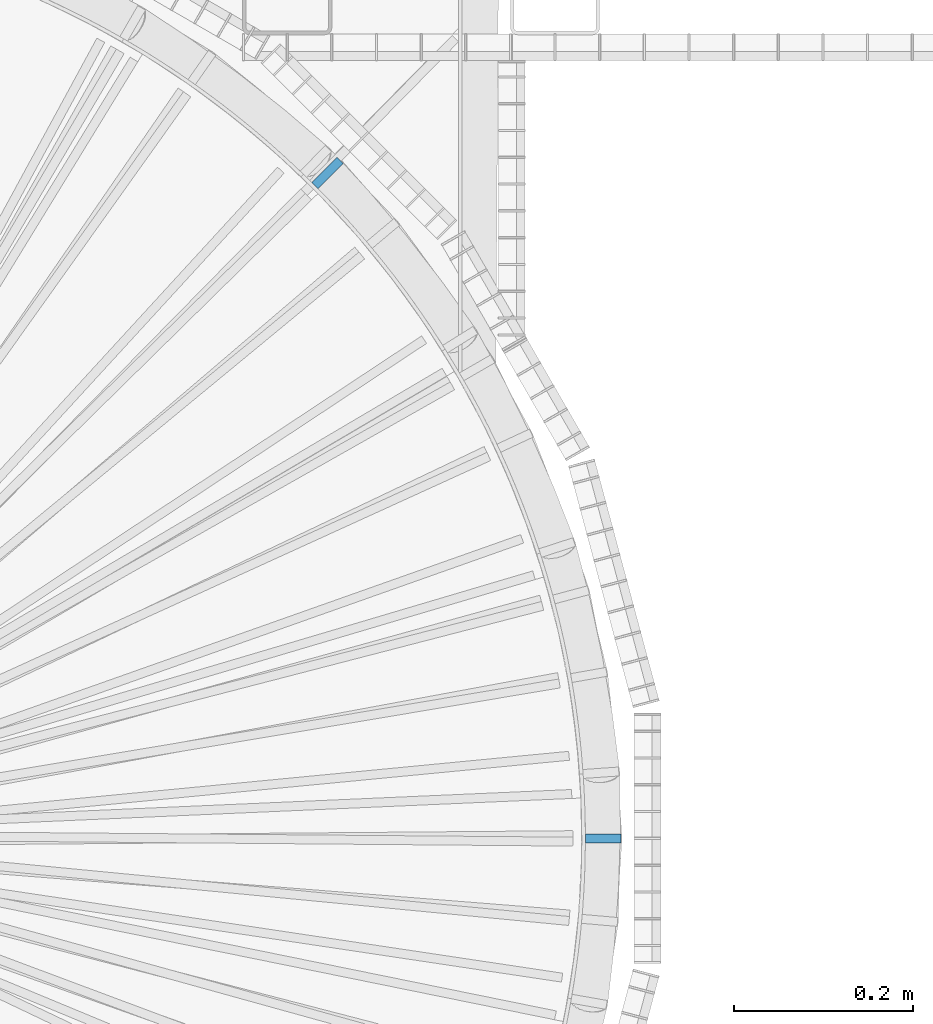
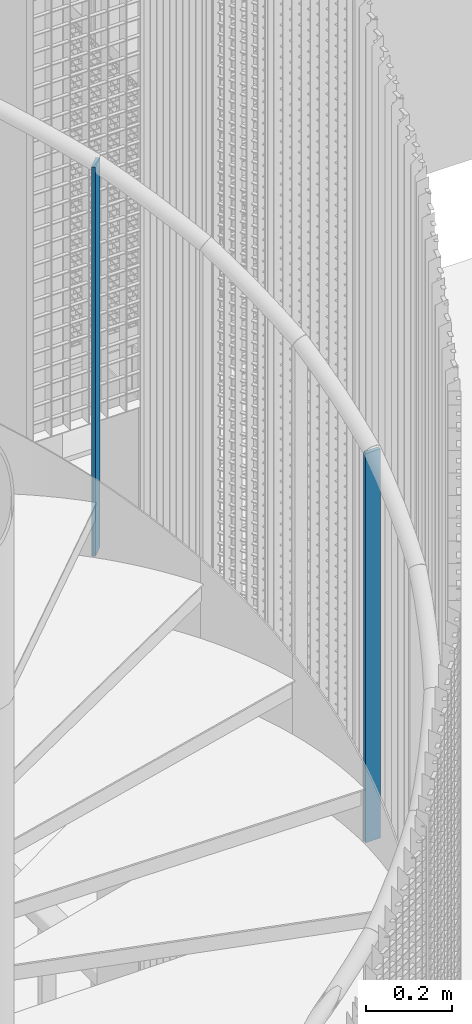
# One storey, part 17 of 1148: 2 columns, 2 elements without a shape of their own.
"""IFC2X3 building model written with IfcOpenShell, lengths in millimetres."""

from ifc_helpers import new_model, si_unit, frame, origin_with_axes, origin_2d_with_axis, place, context, subcontext, project, spatial, rectangle, extrude, material, type_object, element, aggregate, save


model = new_model("IFC2X3")

# Units and contexts
model_context = context("Model", 3, precision=1e-05, world=origin_with_axes())
body_context = subcontext(model_context, "Body", "Model", "MODEL_VIEW")
ifc_project = project(units=[si_unit("LENGTHUNIT", "METRE", prefix="MILLI"), si_unit("AREAUNIT", "SQUARE_METRE"), si_unit("VOLUMEUNIT", "CUBIC_METRE"), si_unit("MASSUNIT", "GRAM", prefix="KILO"), si_unit("TIMEUNIT", "SECOND"), si_unit("PLANEANGLEUNIT", "RADIAN"), si_unit("SOLIDANGLEUNIT", "STERADIAN"), si_unit("THERMODYNAMICTEMPERATUREUNIT", "DEGREE_CELSIUS"), si_unit("LUMINOUSINTENSITYUNIT", "LUMEN")], contexts=[model_context])

# Site, building, storey
site_placement = place(None, origin_with_axes())
site = spatial("IfcSite", under=ifc_project, at=site_placement, Name="Undefined", CompositionType="ELEMENT")
building_placement = place(site_placement, origin_with_axes())
building = spatial("IfcBuilding", under=site, at=building_placement, Name="Undefined", CompositionType="ELEMENT")
storey_placement = place(building_placement, origin_with_axes())
storey = spatial("IfcBuildingStorey", under=building, at=storey_placement, Name="Undefined", CompositionType="ELEMENT", Elevation=0.0)

# Assembly, column
assembly_1_placement = place(storey_placement, origin_with_axes())
assembly_1 = element("IfcElementAssembly", 1, at=assembly_1_placement, inside=storey, Name="MONTANT", AssemblyPlace="NOTDEFINED", PredefinedType="NOTDEFINED")
ifc_material = material(Name="STEEL/S235JR")
column_type = type_object("IfcColumnType", Name="PL10*40", PredefinedType="NOTDEFINED")
column_1_placement = place(assembly_1_placement, frame((1053.99999999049, -2.99564817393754e-13, 9307.36000000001), z_axis=(0.0, 0.0, 1.0), x_axis=(-1.0, 0.0, 0.0)))
column_1 = element("IfcColumn", 2, at=column_1_placement, type_object=column_type, material=ifc_material, Name="MONTANT", context=body_context, shape_type="SweptSolid", body=[
    extrude(rectangle(XDim=10.0, YDim=40.0, at=origin_2d_with_axis()), frame((0.0, 0.0, 1100.0), z_axis=(0.0, 0.0, -1.0), x_axis=(0.0, 1.0, 0.0)), (0.0, 0.0, 1.0), 1100.0),
])
aggregate(assembly_1, [column_1])

assembly_2_placement = place(storey_placement, origin_with_axes())
assembly_2 = element("IfcElementAssembly", 3, at=assembly_2_placement, inside=storey, Name="MONTANT", AssemblyPlace="NOTDEFINED", PredefinedType="NOTDEFINED")
column_2_placement = place(assembly_2_placement, frame((745.290547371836, 745.290547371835, 9776.92000000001), z_axis=(0.0, 0.0, 1.0), x_axis=(-0.70710678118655, -0.707106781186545, 0.0)))
column_2 = element("IfcColumn", 4, at=column_2_placement, type_object=column_type, material=ifc_material, Name="MONTANT", context=body_context, shape_type="SweptSolid", body=[
    extrude(rectangle(XDim=10.0, YDim=40.0, at=origin_2d_with_axis()), frame((0.0, 0.0, 1100.0), z_axis=(0.0, 0.0, -1.0), x_axis=(0.0, 1.0, 0.0)), (0.0, 0.0, 1.0), 1100.0),
])
aggregate(assembly_2, [column_2])

save(model, "model.ifc")
